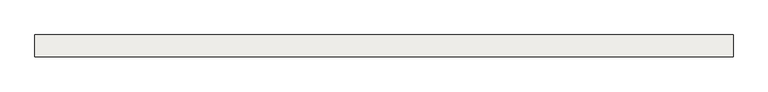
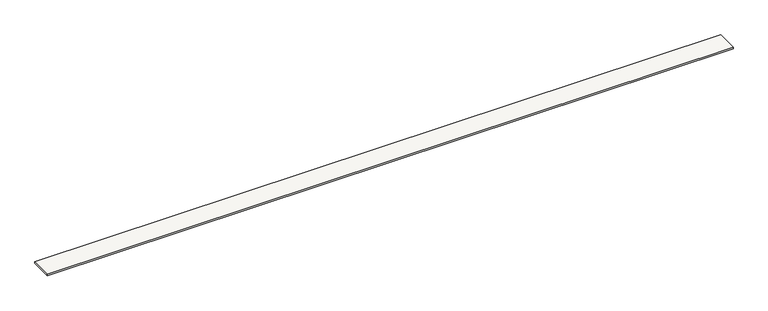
"""IFC4 building model written with IfcOpenShell, lengths in millimetres: slab geometry, Sol-02 - Tablette bois 2cm."""

from ifc_helpers import new_model, si_unit, origin, origin_with_axes, place, context, project, spatial, polyline, outline, extrude, source, transform, mapped, element, save


def slab_a36b345f(model_context):
    return source(origin(), model_context, "Body", "SweptSolid", [
        extrude(outline(polyline([(33397.0000007, 11300.0), (33397.0000007, 10980.0), (23253.9999799, 10980.0), (23253.9999799, 11300.0), (33397.0000007, 11300.0)])), origin_with_axes(), (0.0, 0.0, 1.0), 20.0),
    ])


if __name__ == "__main__":
    model = new_model("IFC4")
    model_context = context("Model", 3, world=origin())
    ifc_project = project(units=[si_unit("LENGTHUNIT", "METRE", prefix="MILLI")], contexts=[model_context])
    site = spatial("IfcSite", under=ifc_project)
    building = spatial("IfcBuilding", under=site)
    placement = place(None, origin())
    slab_shape = slab_a36b345f(model_context)
    element("IfcSlab", 1, ObjectType="Sol-02 - Tablette bois 2cm", at=placement, inside=building, context=model_context, shape_type="MappedRepresentation", body=[
        mapped(slab_shape, transform((0.0, 0.0, 0.0), x_axis=(1.0, 0.0, 0.0), y_axis=(0.0, 1.0, 0.0), z_axis=(0.0, 0.0, 1.0))),
    ])
    save(model, "model.ifc")
